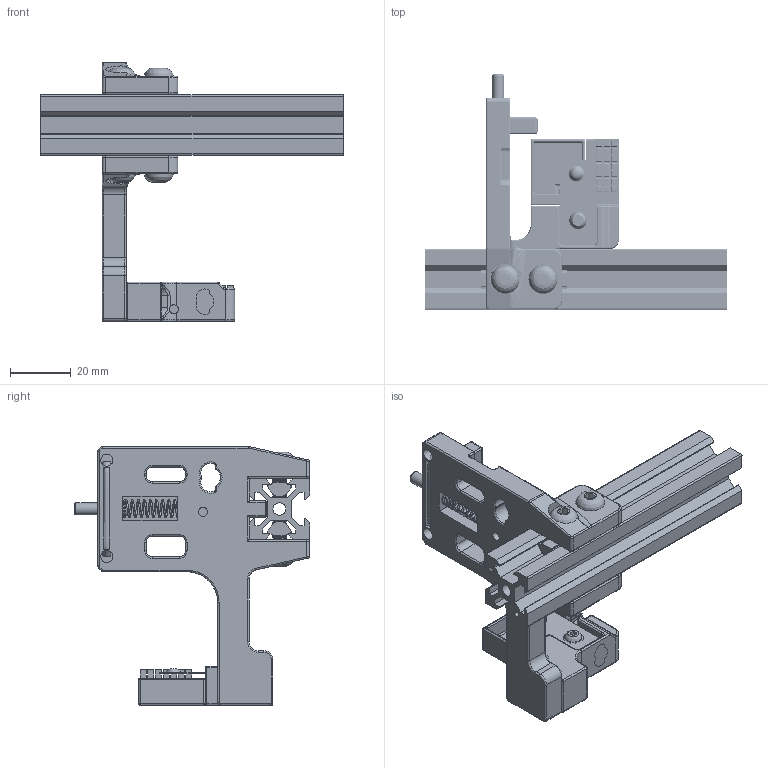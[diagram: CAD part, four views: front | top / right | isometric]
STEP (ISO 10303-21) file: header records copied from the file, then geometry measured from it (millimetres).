
FILE_DESCRIPTION(/* description */ (''),/* implementation_level */ '2;1');
FILE_NAME(/* name */ 'Lineux Stealth r2t Dock v9.step',/* time_stamp */ '2026-02-10T14:55:46+07:00',/* author */ (''),/* organization */ (''),/* preprocessor_version */ 'ST-DEVELOPER v20.1',/* originating_system */ 'Autodesk Translation Framework v14.24.0.0',/* authorisation */ '');
FILE_SCHEMA (('AUTOMOTIVE_DESIGN { 1 0 10303 214 3 1 1 }'));
Products named in the file (38): Lineux Stealth r2t Dock; r2t Dock; r2t Dock (1); Hardware (3); m3 x 6mm bhcs (1) (3); 2020 Drop-in T-nut, M5; 2020 Drop-in T-nut, M5_1; m5 x 12mm bhcs (3) (3); m5 x 12mm bhcs (2) (3); m5 x 12mm bhcs (1) (3); m5 x 12mm bhcs (6); spring OD6 ID5 20mm (1) (5); m3 x OD4 16mm threaded dowel pin (1) (5); m3 heat insert (1) (3); 6 x 3mm n52 magnet (1) (3); 8 x 5mm n52 magnet (2) (4); 8 x 5mm n52 magnet (3) (3); 2020 Drop-in T-nut, M5_2; 2020 Drop-in T-nut, M5_3; wire; r2t_dock (1); Nozzle Blocker (5); Drip Tray; 6x3mm magnet (2); 6x3mm magnet (3); [a]_drip_tray; Nozzle Blocker; Bambulab A1 Brush; nozzle_blocker_mount; 6x3mm magnet; m3 washer; AA battery terminal; m3 x 10mm bhcs; m3 hex nut; 6x3mm magnet (1); m3 x 10mm bhcs (1); [a]_logo_nb; 2020 Extrusion (5)
Assembly tree (37 placements, depth 5):
  Lineux Stealth r2t Dock
    r2t Dock
      r2t Dock (1)
        Hardware (3)
          m3 x 6mm bhcs (1) (3)
          2020 Drop-in T-nut, M5
          2020 Drop-in T-nut, M5_1
          m5 x 12mm bhcs (3) (3)
          m5 x 12mm bhcs (2) (3)
          m5 x 12mm bhcs (1) (3)
          m5 x 12mm bhcs (6)
          spring OD6 ID5 20mm (1) (5)
          m3 x OD4 16mm threaded dowel pin (1) (5)
          m3 heat insert (1) (3)
          6 x 3mm n52 magnet (1) (3)
          8 x 5mm n52 magnet (2) (4)
          8 x 5mm n52 magnet (3) (3)
          2020 Drop-in T-nut, M5_2
          2020 Drop-in T-nut, M5_3
          wire
        r2t_dock (1)
      Nozzle Blocker (5)
        Drip Tray
          6x3mm magnet (2)
          6x3mm magnet (3)
          [a]_drip_tray
        Nozzle Blocker
          Bambulab A1 Brush
          nozzle_blocker_mount
          6x3mm magnet
          m3 washer
          AA battery terminal
          m3 x 10mm bhcs
          m3 hex nut
          6x3mm magnet (1)
          m3 x 10mm bhcs (1)
          [a]_logo_nb
      2020 Extrusion (5)
Bounding box: 100 x 77.7 x 85.52 mm (x, y, z)
Volume: 55899.1 mm3; surface area: 43589.9 mm2
Topology: 35 solids, 35 shells, 1651 faces, 4295 edges, 2708 vertices
Faces by surface type: cylinder 756, plane 540, bspline 222, torus 63, sphere 42, cone 28
Full cylindrical faces by diameter (mm): 2.356 x52, 2.5 x5, 2.529 x11, 2.729 x1, 2.927 x49, 3 x8, 3.086 x5, 3.4 x2, 3.99 x16, 4 x3, 4.145 x2, 4.2 x2, 4.7 x1, 4.901 x36, 5.12 x12, 5.5 x4, 5.7 x3, 6 x5, 6.1 x1, 6.7 x1, 7 x1, 8 x2, 10 x2
Entity records: 108413 total; most frequent: CARTESIAN_POINT 69377, ORIENTED_EDGE 8514, DIRECTION 7061, EDGE_CURVE 4257, VERTEX_POINT 2707, AXIS2_PLACEMENT_3D 2574, LINE 1913, VECTOR 1913
